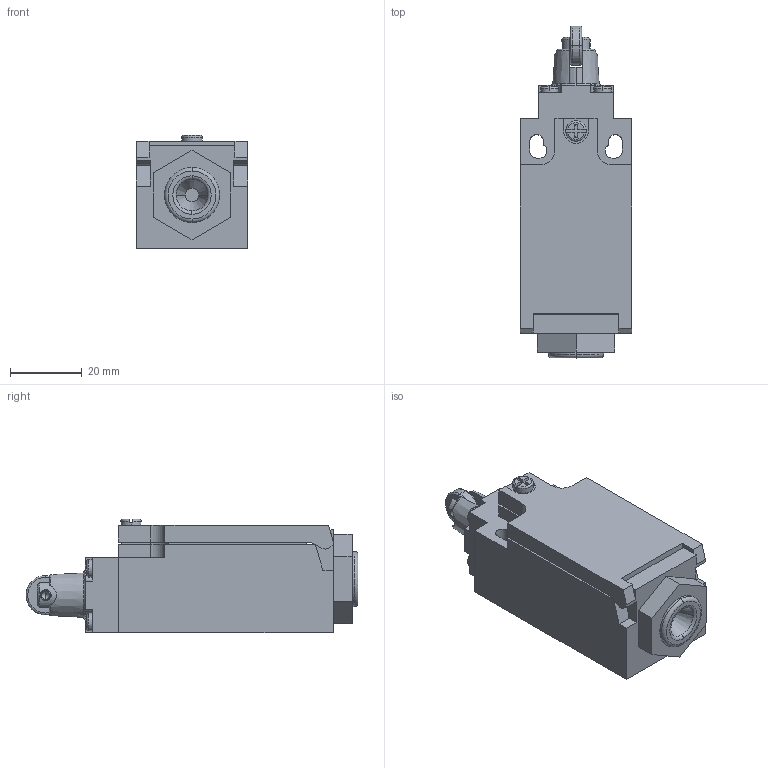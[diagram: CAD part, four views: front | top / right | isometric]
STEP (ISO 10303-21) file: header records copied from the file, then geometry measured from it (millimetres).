
FILE_DESCRIPTION (( 'STEP AP203' ), '1' );
FILE_NAME ('FM9222.STEP', '2018-03-23T13:28:00', ( '' ), ( '' ), 'SwSTEP 2.0', 'SolidWorks 2012', '' );
FILE_SCHEMA (( 'CONFIG_CONTROL_DESIGN' ));
Length unit declared in the file: millimetre
Products named in the file (1): FM9222
Bounding box: 31.2 x 92.7 x 31.7 mm (x, y, z)
Volume: 59572.3 mm3; surface area: 13588 mm2
Topology: 2 solids, 2 shells, 275 faces, 753 edges, 492 vertices
Faces by surface type: plane 185, cylinder 49, torus 27, cone 8, bspline 4, sphere 2
Entity records: 9191 total; most frequent: CARTESIAN_POINT 2145, ORIENTED_EDGE 1502, DIRECTION 1400, EDGE_CURVE 751, VERTEX_POINT 492, AXIS2_PLACEMENT_3D 469, LINE 462, VECTOR 462
